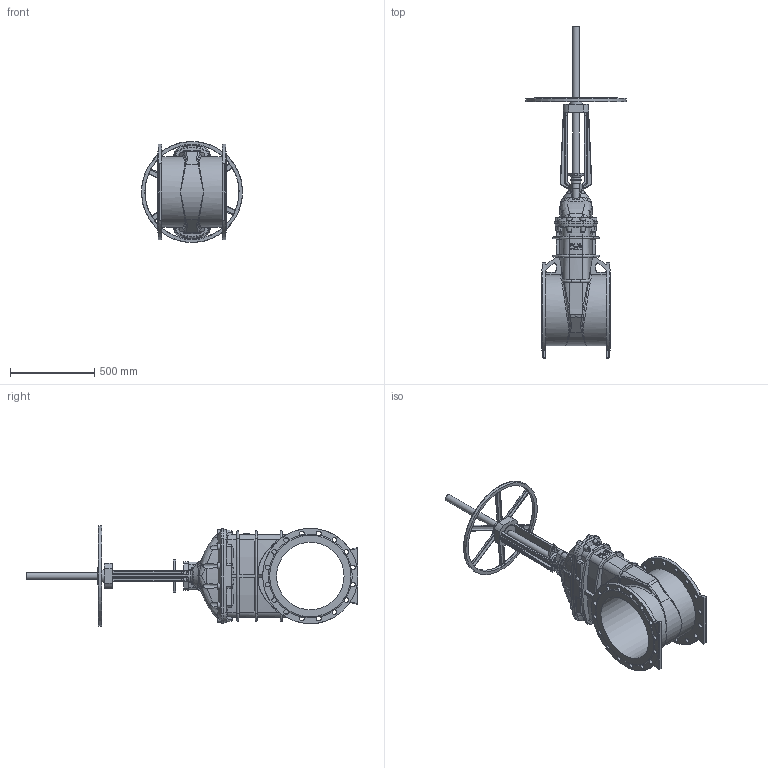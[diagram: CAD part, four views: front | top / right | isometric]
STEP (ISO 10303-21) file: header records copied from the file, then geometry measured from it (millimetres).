
FILE_DESCRIPTION (( 'STEP AP203' ), '1' );
FILE_NAME ('O_21_34_DN400_40XXXXX open_AA0.step', '2020-02-12T09:51:39', ( 'Windows User' ), ( 'AVK' ), 'SwSTEP 2.0', 'SolidWorks 2012', '' );
FILE_SCHEMA (( 'CONFIG_CONTROL_DESIGN' ));
Length unit declared in the file: millimetre
Products named in the file (1): O_21_34_DN400_40XXXXX open_AA0
Bounding box: 598.51 x 1967.5 x 598.51 mm (x, y, z)
Volume: 60256309.7 mm3; surface area: 3150823.2 mm2
Topology: 1 solids, 1 shells, 790 faces, 2224 edges, 1392 vertices
Faces by surface type: bspline 213, plane 203, cylinder 197, cone 124, torus 49, sphere 4
Full cylindrical faces by diameter (mm): 28 x32, 40 x2, 55.9 x1, 60 x1, 77 x1, 105 x1, 400 x1, 565 x2
Entity records: 39466 total; most frequent: CARTESIAN_POINT 21795, ORIENTED_EDGE 4220, DIRECTION 2956, EDGE_CURVE 2110, VERTEX_POINT 1348, AXIS2_PLACEMENT_3D 1208, EDGE_LOOP 902, FACE_OUTER_BOUND 834
